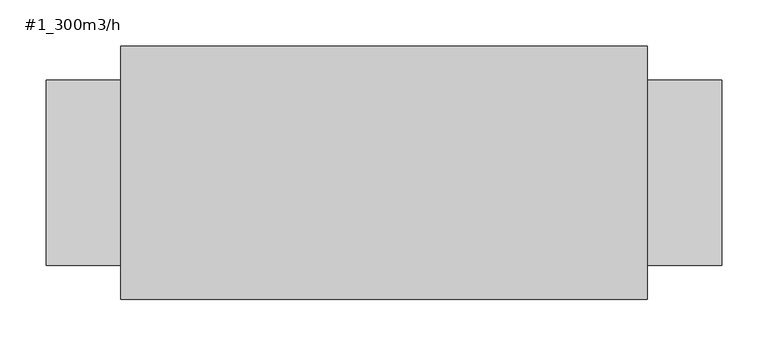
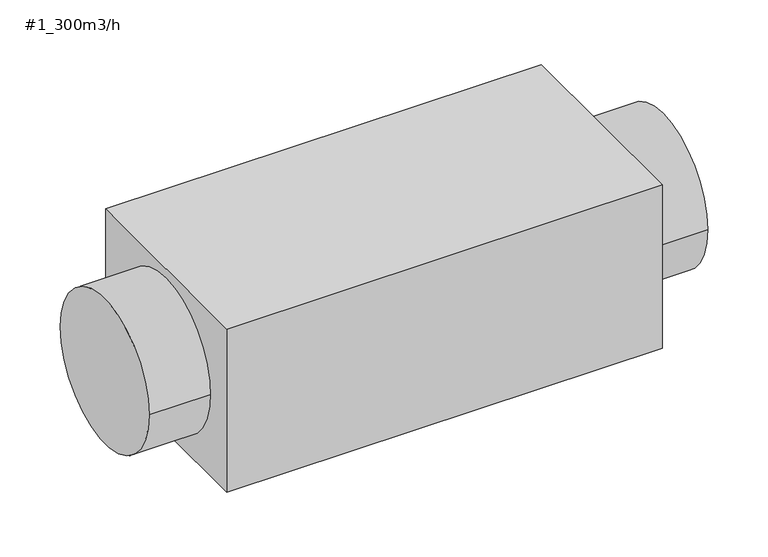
"""IFC4 building model written with IfcOpenShell, lengths in millimetres: unitary equipment geometry, 11030_FAN_消音ボックス付送風機 : #1_300m3/h."""

from ifc_helpers import new_model, si_unit, point, frame, origin, origin_2d, place, context, project, spatial, polyline, circle_curve, trimmed, segment, composite_curve, outline, extrude, source, transform, mapped, element, save


def unitary_equipment_1_300m3_h_c85a9461(model_context):
    return source(origin(), model_context, "Body", "SweptSolid", [
        extrude(outline(composite_curve([segment(trimmed(circle_curve(origin_2d(), 100.0), [point((-100.0, 0.0))], [point((100.0, 0.0))], False, "CARTESIAN"), True, "CONTINUOUS"), segment(trimmed(circle_curve(origin_2d(), 100.0), [point((100.0, 0.0))], [point((-100.0, 0.0))], False, "CARTESIAN"), True, "CONTINUOUS")], self_intersect=False)), frame((-364.0, 0.0, 0.0), z_axis=(1.0, 0.0, 0.0), x_axis=(0.0, 1.0, 0.0)), (0.0, 0.0, 1.0), 80.0),
        extrude(outline(composite_curve([segment(trimmed(circle_curve(origin_2d(), 100.0), [point((-100.0, 0.0))], [point((100.0, 0.0))], False, "CARTESIAN"), True, "CONTINUOUS"), segment(trimmed(circle_curve(origin_2d(), 100.0), [point((100.0, 0.0))], [point((-100.0, 0.0))], False, "CARTESIAN"), True, "CONTINUOUS")], self_intersect=False)), frame((284.0, 0.0, 0.0), z_axis=(1.0, 0.0, 0.0), x_axis=(0.0, 1.0, 0.0)), (0.0, 0.0, 1.0), 80.0),
        extrude(outline(polyline([(284.0, -136.5), (-284.0, -136.5), (-284.0, 136.5), (284.0, 136.5), (284.0, -136.5)])), frame((0.0, 0.0, -112.5), z_axis=(0.0, 0.0, 1.0), x_axis=(1.0, 0.0, 0.0)), (0.0, 0.0, 1.0), 225.0),
    ])


if __name__ == "__main__":
    model = new_model("IFC4")
    model_context = context("Model", 3, world=origin())
    ifc_project = project(units=[si_unit("LENGTHUNIT", "METRE", prefix="MILLI")], contexts=[model_context])
    site = spatial("IfcSite", under=ifc_project)
    building = spatial("IfcBuilding", under=site)
    placement = place(None, origin())
    unitary_equipment_1_300m3_h_shape = unitary_equipment_1_300m3_h_c85a9461(model_context)
    element("IfcUnitaryEquipment", 1, ObjectType="11030_FAN_消音ボックス付送風機 : #1_300m3/h", at=placement, inside=building, context=model_context, shape_type="MappedRepresentation", body=[
        mapped(unitary_equipment_1_300m3_h_shape, transform((0.0, 0.0, 0.0), x_axis=(1.0, 0.0, 0.0), y_axis=(0.0, 1.0, 0.0), z_axis=(0.0, 0.0, 1.0))),
    ])
    save(model, "model.ifc")
